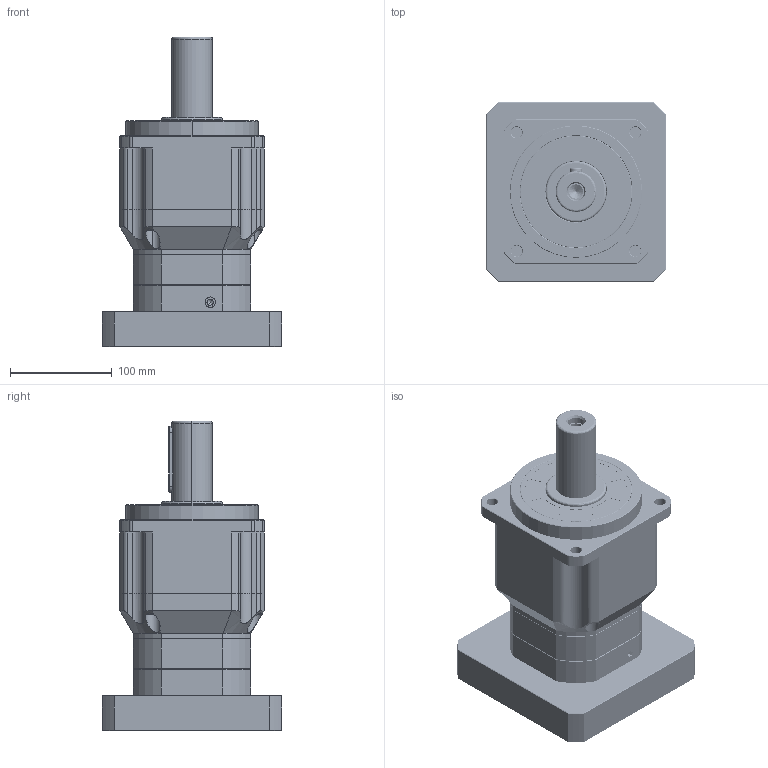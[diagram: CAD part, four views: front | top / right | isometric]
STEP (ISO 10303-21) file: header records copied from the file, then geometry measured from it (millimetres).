
FILE_DESCRIPTION (( 'STEP AP214' ), '1' );
FILE_NAME ('OB142L2-114.3-35-M12.STEP', '2020-08-17T08:06:31', ( '微软用户' ), ( '微软中国' ), 'SwSTEP 2.0', 'SolidWorks 2014', '' );
FILE_SCHEMA (( 'AUTOMOTIVE_DESIGN' ));
Length unit declared in the file: millimetre
Products named in the file (123): 蚐猾60X110X12; Spring lock washers--Normal type GB_GB_FASTENER_WASHER_SW 8; Deep groove ball bearings GB_Rolling bearings 61821 GB 276-94; Plain parallel keys_GB_CONNECTING_PIECE_KEYS_CSK C6X18; Hexagon socket head cap screws GB_GB_FASTENER_SCREWS_HSHCS M8X25-N; 媼撰笢潔楊擘; 115俴陎粣10.347X33.5; Deep groove ball bearings GB_Rolling bearings 6212 GB 276-94; Plain parallel keys_GB_CONNECTING_PIECE_KEYS_CSK 12X63; Circlips for holes--Type A GB_GB_CONNECTING_PIECE_RING_RRH 62; 怀堤粣5; 幗渀粣創13.513X18.513; 115幗渀粣創10.347X15.347X20; 115俴陎謫5A; 一级齿圈Z108; Hexagon socket head cap screws GB_GB_FASTENER_SCREWS_HSHCS M8X30-N; 俴陎謫菜え13.6X27; 115俴陎謫菜え10.5; OB142L2-114.3-35-M12; Hex socket set screws with flat point GB_GB_FASTENER_SCREWS_HSFP M12X16-N; 115K114.3萇儂楊擘; Deep groove ball bearings GB_Rolling bearings 61816 GB 276-94; 115薊粣ん35K18; Plain parallel keys_GB_CONNECTING_PIECE_KEYS_CSK C4X16; 俴陎殤5A-5; Hexagon socket head cap screws GB_GB_FASTENER_SCREWS_HSHCS M6X25-N; Circlips for shaft--Type A large GB_GB_CONNECTING_PIECE_RING_RRA 50; 俴陎粣13.513; 二级齿圈Z84; Spring lock washers--Normal type GB_GB_FASTENER_WASHER_SW 6; Hexagon socket countersunk head screws GB_GB_FASTENER_SCREWS_HSCHS M5X12-N; Circlips for hole--Type B GB_GB_CONNECTING_PIECE_RINGS_CHB 80; 俴陎謫5; 粣創揤啣80; 115怮栠謫5A; 怮栠謫5; Deep groove ball bearings GB_Rolling bearings 6010 GB 276-94; Circlips for hole--Type B GB_GB_CONNECTING_PIECE_RINGS_CHB 110
Assembly tree (85 placements, depth 2):
  蚐猾60X110X12
  Spring lock washers--Normal type GB_GB_FASTENER_WASHER_SW 8
  Plain parallel keys_GB_CONNECTING_PIECE_KEYS_CSK C6X18
  Hexagon socket head cap screws GB_GB_FASTENER_SCREWS_HSHCS M8X25-N
  115俴陎粣10.347X33.5
Bounding box: 176 x 176 x 304.5 mm (x, y, z)
Volume: 3231405.4 mm3; surface area: 713639.9 mm2
Topology: 85 solids, 85 shells, 2875 faces, 9205 edges, 5590 vertices
Faces by surface type: bspline 891, cylinder 859, plane 713, cone 375, torus 37
Entity records: 109755 total; most frequent: CARTESIAN_POINT 49622, ORIENTED_EDGE 13986, DIRECTION 10291, EDGE_CURVE 6993, VERTEX_POINT 4658, AXIS2_PLACEMENT_3D 4442, CIRCLE 2997, EDGE_LOOP 2447
